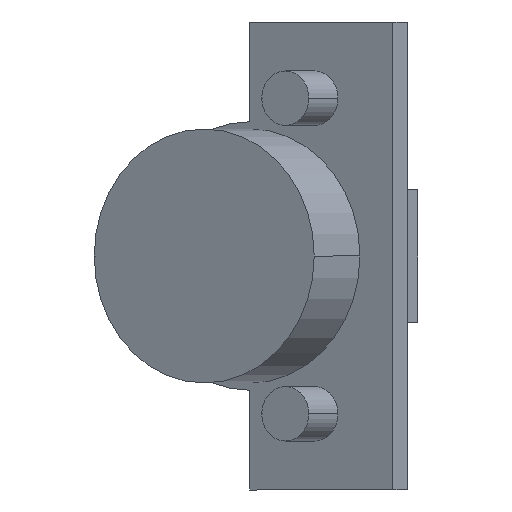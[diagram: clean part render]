
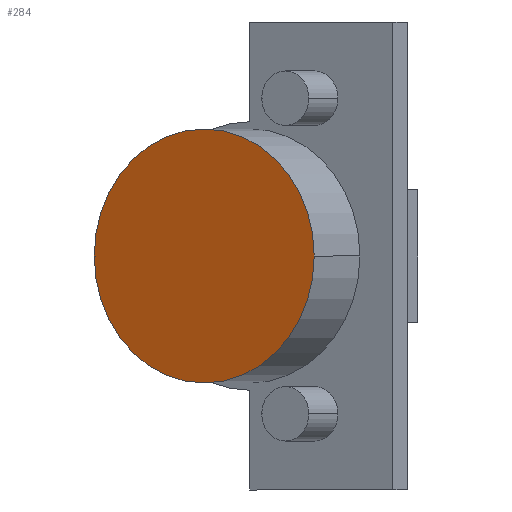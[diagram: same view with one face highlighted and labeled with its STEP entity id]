
A CAD part, front view. The second image highlights one B-rep face of the part: STEP entity #284.
In plain terms, the highlighted planar face has unit normal (-0.5, -0.866, 0).
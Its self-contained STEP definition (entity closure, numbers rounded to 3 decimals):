
#114 = EDGE_CURVE ( 'NONE', #1005, #1031, #836, .T. ) ;
#130 = EDGE_CURVE ( 'NONE', #1031, #1005, #858, .T. ) ;
#155 = AXIS2_PLACEMENT_3D ( 'NONE', #1286, #1290, #1291 ) ;
#167 = AXIS2_PLACEMENT_3D ( 'NONE', #1325, #1330, #1331 ) ;
#220 = AXIS2_PLACEMENT_3D ( 'NONE', #1522, #1528, #1529 ) ;
#284 = ADVANCED_FACE ( 'NONE', ( #930 ), #1514, .T. ) ;
#517 = ORIENTED_EDGE ( 'NONE', *, *, #114, .T. ) ;
#518 = ORIENTED_EDGE ( 'NONE', *, *, #130, .T. ) ;
#598 = EDGE_LOOP ( 'NONE', ( #518, #517 ) ) ;
#836 = CIRCLE ( 'NONE', #155, 17.5 ) ;
#858 = CIRCLE ( 'NONE', #167, 17.5 ) ;
#930 = FACE_OUTER_BOUND ( 'NONE', #598, .T. ) ;
#1005 = VERTEX_POINT ( 'NONE', #1614 ) ;
#1031 = VERTEX_POINT ( 'NONE', #1640 ) ;
#1286 = CARTESIAN_POINT ( 'NONE',  ( -3.613, -10.912, 0. ) ) ;
#1290 = DIRECTION ( 'NONE',  ( -0.5, -0.866, 0. ) ) ;
#1291 = DIRECTION ( 'NONE',  ( 0.866, -0.5, 0. ) ) ;
#1325 = CARTESIAN_POINT ( 'NONE',  ( -3.613, -10.912, 0. ) ) ;
#1330 = DIRECTION ( 'NONE',  ( -0.5, -0.866, 0. ) ) ;
#1331 = DIRECTION ( 'NONE',  ( 0.866, -0.5, 0. ) ) ;
#1514 = PLANE ( 'NONE',  #220 ) ;
#1522 = CARTESIAN_POINT ( 'NONE',  ( -3.613, -10.912, 0. ) ) ;
#1528 = DIRECTION ( 'NONE',  ( -0.5, -0.866, 0. ) ) ;
#1529 = DIRECTION ( 'NONE',  ( 0.866, -0.5, 0. ) ) ;
#1614 = CARTESIAN_POINT ( 'NONE',  ( 11.542, -19.662, 0. ) ) ;
#1640 = CARTESIAN_POINT ( 'NONE',  ( -18.768, -2.162, 0. ) ) ;
